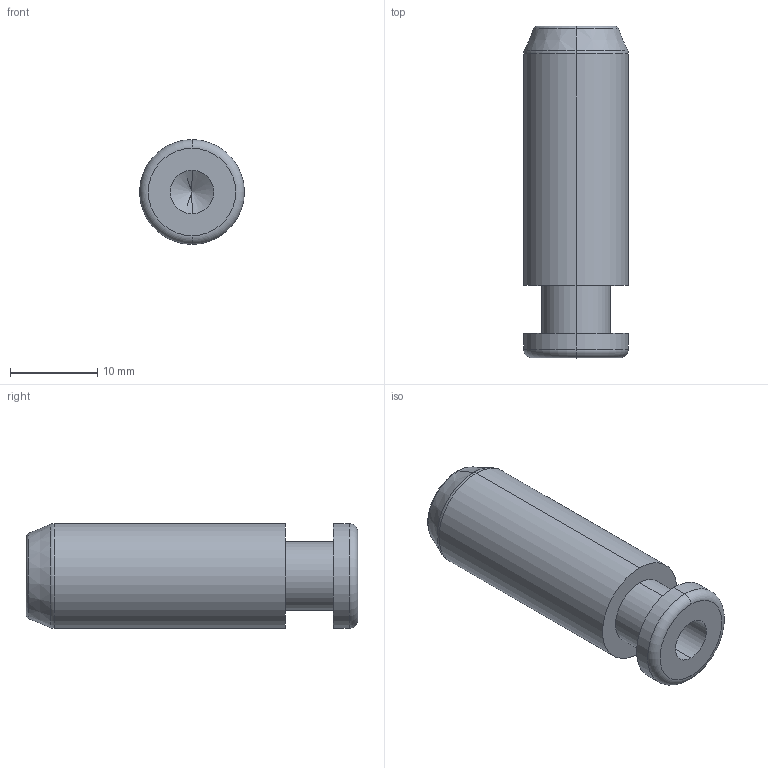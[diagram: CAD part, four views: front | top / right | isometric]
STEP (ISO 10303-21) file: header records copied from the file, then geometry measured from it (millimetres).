
FILE_DESCRIPTION (( 'STEP AP203' ), '1' );
FILE_NAME ('PF12-38.STEP', '2020-07-28T01:33:31', ( '' ), ( '' ), 'SwSTEP 2.0', 'SolidWorks 2019', '' );
FILE_SCHEMA (( 'CONFIG_CONTROL_DESIGN' ));
Length unit declared in the file: millimetre
Products named in the file (1): PF12-38
Bounding box: 12 x 38 x 12 mm (x, y, z)
Volume: 3470.7 mm3; surface area: 1997.1 mm2
Topology: 1 solids, 1 shells, 26 faces, 54 edges, 30 vertices
Faces by surface type: cylinder 10, torus 6, cone 6, plane 4
Entity records: 745 total; most frequent: DIRECTION 138, CARTESIAN_POINT 107, ORIENTED_EDGE 100, AXIS2_PLACEMENT_3D 61, EDGE_CURVE 50, CIRCLE 34, VERTEX_POINT 30, EDGE_LOOP 30
